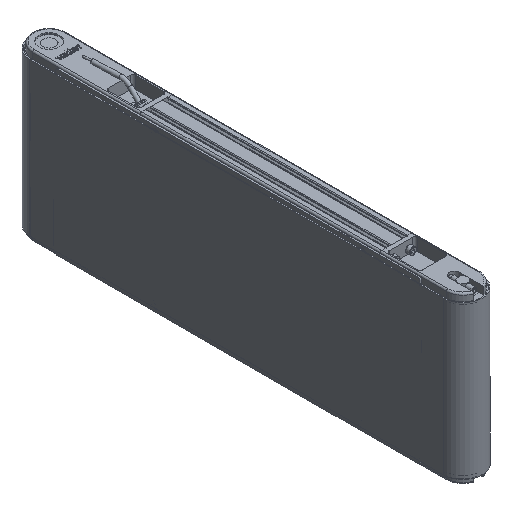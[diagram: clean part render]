
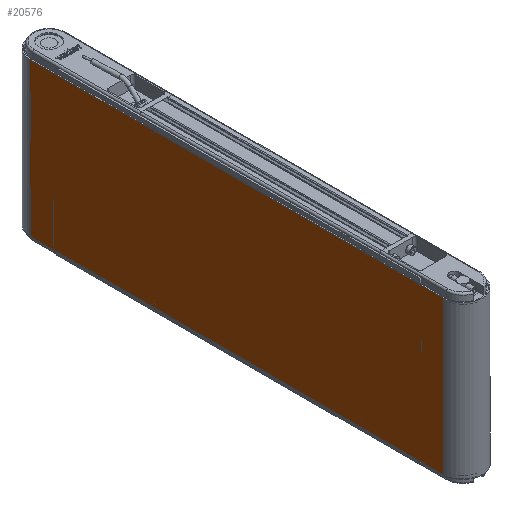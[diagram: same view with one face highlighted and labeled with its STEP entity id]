
A CAD part, isometric view. The second image highlights one B-rep face of the part: STEP entity #20576.
In plain terms, the highlighted planar face has unit normal (-1, 0, 0).
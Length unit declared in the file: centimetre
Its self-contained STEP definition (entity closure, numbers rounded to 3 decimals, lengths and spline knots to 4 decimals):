
#2168=FACE_OUTER_BOUND('',#3302,.T.);
#3302=EDGE_LOOP('',(#13806,#13807,#13808,#13809));
#4704=LINE('',#30289,#6309);
#4705=LINE('',#30294,#6310);
#4707=LINE('',#30298,#6312);
#4708=LINE('',#30299,#6313);
#6309=VECTOR('',#24738,1.);
#6310=VECTOR('',#24743,1.);
#6312=VECTOR('',#24747,1.);
#6313=VECTOR('',#24748,1.);
#8111=VERTEX_POINT('',#30283);
#8113=VERTEX_POINT('',#30287);
#8115=VERTEX_POINT('',#30292);
#8116=VERTEX_POINT('',#30297);
#10318=EDGE_CURVE('',#8111,#8113,#4704,.T.);
#10320=EDGE_CURVE('',#8115,#8113,#4705,.T.);
#10322=EDGE_CURVE('',#8115,#8116,#4707,.T.);
#10323=EDGE_CURVE('',#8116,#8111,#4708,.T.);
#13806=ORIENTED_EDGE('',*,*,#10322,.T.);
#13807=ORIENTED_EDGE('',*,*,#10323,.T.);
#13808=ORIENTED_EDGE('',*,*,#10318,.T.);
#13809=ORIENTED_EDGE('',*,*,#10320,.F.);
#18843=PLANE('',#21973);
#20576=ADVANCED_FACE('',(#2168),#18843,.T.);
#21973=AXIS2_PLACEMENT_3D('',#30296,#24745,#24746);
#24738=DIRECTION('',(0.,1.,0.));
#24743=DIRECTION('',(0.,0.,1.));
#24745=DIRECTION('center_axis',(-1.,0.,0.));
#24746=DIRECTION('ref_axis',(0.,0.,
1.));
#24747=DIRECTION('',(0.,-1.,0.));
#24748=DIRECTION('',(0.,0.,1.));
#30283=CARTESIAN_POINT('',(-2.33,-37.,9.25));
#30287=CARTESIAN_POINT('',(-2.33,13.,9.25));
#30289=CARTESIAN_POINT('',(-2.33,13.,9.25));
#30292=CARTESIAN_POINT('',(-2.33,13.,-9.25));
#30294=CARTESIAN_POINT('',(-2.33,13.,0.));
#30296=CARTESIAN_POINT('Origin',(-2.33,13.,0.));
#30297=CARTESIAN_POINT('',(-2.33,-37.,-9.25));
#30298=CARTESIAN_POINT('',(-2.33,13.,-9.25));
#30299=CARTESIAN_POINT('',(-2.33,-37.,0.));
